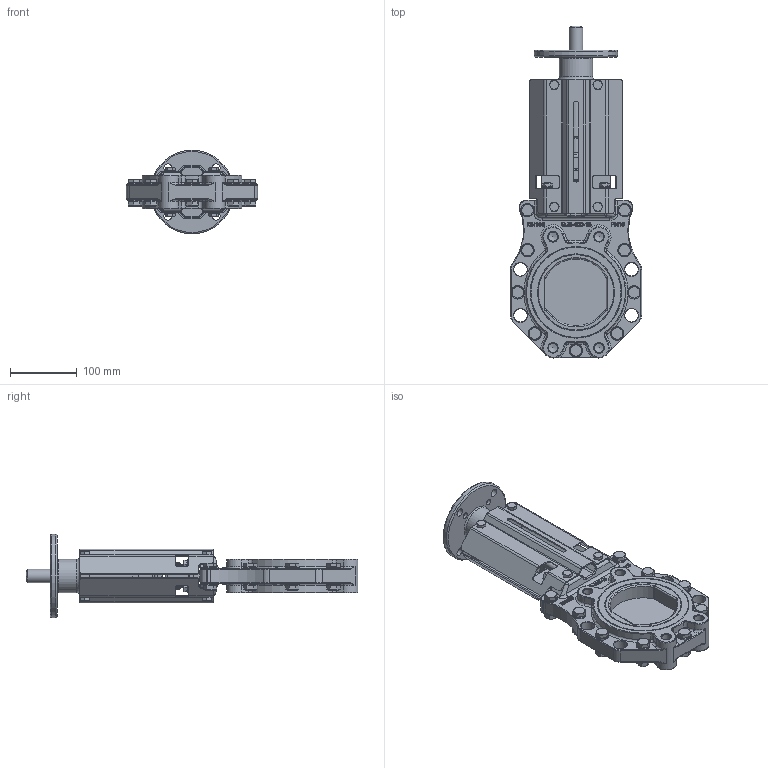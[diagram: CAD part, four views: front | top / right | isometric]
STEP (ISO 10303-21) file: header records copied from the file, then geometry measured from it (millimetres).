
FILE_DESCRIPTION(/* description */ (''),/* implementation_level */ '2;1');
FILE_NAME(/* name */ 'Rising stem knife gate valve with top flange DN100-10.stp',/* time_stamp */ '2025-04-21T17:07:33+08:00',/* author */ (''),/* organization */ (''),/* preprocessor_version */ 'ST-DEVELOPER v15',/* originating_system */ 'SIEMENS PLM Software NX 10.0',/* authorisation */ '');
FILE_SCHEMA (('AP203_CONFIGURATION_CONTROLLED_3D_DESIGN_OF_MECHANICAL_PARTS_AND_ASSEMBLIES_MIM_LF { 1 0 10303 403 2 1 2}'));
Products named in the file (1): Admi256412D81ntx
Bounding box: 196.3 x 496.65 x 125 mm (x, y, z)
Volume: 1698500.6 mm3; surface area: 385439.8 mm2
Topology: 1 solids, 23 shells, 2295 faces, 5727 edges, 3577 vertices
Faces by surface type: plane 903, cylinder 561, extrusion 268, cone 198, bspline 163, torus 158, sphere 44
Full cylindrical faces by diameter (mm): 1.7 x4, 5.2 x1, 6.647 x4, 7.323 x4, 8 x4, 8.4 x4, 8.5 x2, 9 x8, 9.188 x9, 10 x18, 10.5 x18, 11.4 x8, 12 x4, 13.8 x2, 13.835 x8, 14.5 x1, 15.4 x9, 16 x10, 20 x23, 25 x1, 40 x1, 50 x1, 125 x1
Entity records: 72617 total; most frequent: CARTESIAN_POINT 22001, ORIENTED_EDGE 10652, DIRECTION 9129, EDGE_CURVE 5326, VERTEX_POINT 3491, AXIS2_PLACEMENT_3D 3298, EDGE_LOOP 2793, VECTOR 2533
